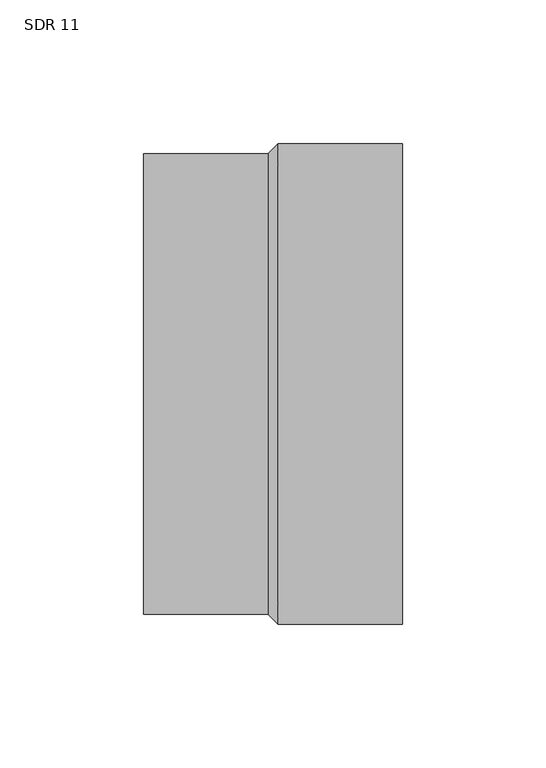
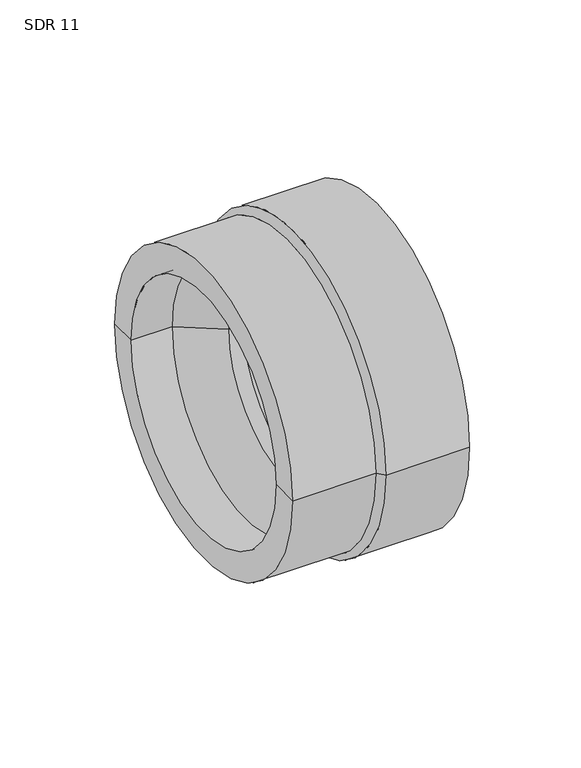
"""IFC4 building model written with IfcOpenShell, lengths in millimetres: pipe fitting geometry, Aquatherm - Reducing Coupling Butt Weld to Socket : SDR 11."""

from ifc_helpers import new_model, si_unit, frame, origin, place, context, project, spatial, polyline, circle_curve, source, transform, mapped, element, save
from ifc_brep_helpers import plane_surface, cylinder_surface, revolved_surface, advanced_brep


def sdr_11_1823e4a8(model_context):
    return source(origin(), model_context, "Body", "AdvancedBrep", [
        advanced_brep(
        [(1.7145, -83.439, 0.0), (1.7145, 83.439, 0.0), (44.958, 83.439, 0.0), (44.958, -83.439, 0.0), (44.958, 62.484, 0.0), (44.958, -62.484, 0.0), (-23.749, -65.405, 0.0), (-23.749, 65.405, 0.0), (-44.958, 65.405, 0.0), (-44.958, -65.405, 0.0), (-44.958, 80.01, 0.0), (-44.958, -80.01, 0.0), (5.08, 62.484, 0.0), (5.08, -62.484, 0.0), (5.08, 50.927, 0.0), (5.08, -50.927, 0.0), (-2.54, 50.927, 0.0), (-2.54, -50.927, 0.0), (-1.7145, 80.01, 0.0), (-1.7145, -80.01, 0.0)],
        [
            (0, 1, circle_curve(frame((1.7145, 0.0, 0.0), z_axis=(1.0, 0.0, 0.0), x_axis=(0.0, 1.0, 0.0)), 83.439)),
            (1, 2),
            (2, 3, circle_curve(frame((44.958, 0.0, 0.0), z_axis=(-1.0, 0.0, 0.0), x_axis=(0.0, 1.0, 0.0)), 83.439)),
            (3, 0),
            (1, 0, circle_curve(frame((1.7145, 0.0, 0.0), z_axis=(1.0, 0.0, 0.0), x_axis=(0.0, 1.0, 0.0)), 83.439)),
            (3, 2, circle_curve(frame((44.958, 0.0, 0.0), z_axis=(-1.0, 0.0, 0.0), x_axis=(0.0, 1.0, 0.0)), 83.439)),
            (2, 4),
            (4, 5, circle_curve(frame((44.958, 0.0, 0.0), z_axis=(-1.0, 0.0, 0.0), x_axis=(0.0, 1.0, 0.0)), 62.484)),
            (5, 3),
            (5, 4, circle_curve(frame((44.958, 0.0, 0.0), z_axis=(-1.0, 0.0, 0.0), x_axis=(0.0, 1.0, 0.0)), 62.484)),
            (6, 7, circle_curve(frame((-23.749, 0.0, 0.0), z_axis=(1.0, 0.0, 0.0), x_axis=(0.0, 1.0, 0.0)), 65.405)),
            (7, 8),
            (8, 9, circle_curve(frame((-44.958, 0.0, 0.0), z_axis=(-1.0, 0.0, 0.0), x_axis=(0.0, 1.0, 0.0)), 65.405)),
            (9, 6),
            (7, 6, circle_curve(frame((-23.749, 0.0, 0.0), z_axis=(1.0, 0.0, 0.0), x_axis=(0.0, 1.0, 0.0)), 65.405)),
            (9, 8, circle_curve(frame((-44.958, 0.0, 0.0), z_axis=(-1.0, 0.0, 0.0), x_axis=(0.0, 1.0, 0.0)), 65.405)),
            (8, 10),
            (10, 11, circle_curve(frame((-44.958, 0.0, 0.0), z_axis=(-1.0, 0.0, 0.0), x_axis=(0.0, 1.0, 0.0)), 80.01)),
            (11, 9),
            (11, 10, circle_curve(frame((-44.958, 0.0, 0.0), z_axis=(-1.0, 0.0, 0.0), x_axis=(0.0, 1.0, 0.0)), 80.01)),
            (4, 12),
            (12, 13, circle_curve(frame((5.08, 0.0, 0.0), z_axis=(-1.0, 0.0, 0.0), x_axis=(0.0, 1.0, 0.0)), 62.484)),
            (13, 5),
            (13, 12, circle_curve(frame((5.08, 0.0, 0.0), z_axis=(-1.0, 0.0, 0.0), x_axis=(0.0, 1.0, 0.0)), 62.484)),
            (12, 14),
            (14, 15, circle_curve(frame((5.08, 0.0, 0.0), z_axis=(-1.0, 0.0, 0.0), x_axis=(0.0, 1.0, 0.0)), 50.927)),
            (15, 13),
            (15, 14, circle_curve(frame((5.08, 0.0, 0.0), z_axis=(-1.0, 0.0, 0.0), x_axis=(0.0, 1.0, 0.0)), 50.927)),
            (14, 16),
            (16, 17, circle_curve(frame((-2.54, 0.0, 0.0), z_axis=(-1.0, 0.0, 0.0), x_axis=(0.0, 1.0, 0.0)), 50.927)),
            (17, 15),
            (17, 16, circle_curve(frame((-2.54, 0.0, 0.0), z_axis=(-1.0, 0.0, 0.0), x_axis=(0.0, 1.0, 0.0)), 50.927)),
            (10, 18),
            (18, 19, circle_curve(frame((-1.7145, 0.0, 0.0), z_axis=(-1.0, 0.0, 0.0), x_axis=(0.0, 1.0, 0.0)), 80.01)),
            (19, 11),
            (19, 18, circle_curve(frame((-1.7145, 0.0, 0.0), z_axis=(-1.0, 0.0, 0.0), x_axis=(0.0, 1.0, 0.0)), 80.01)),
            (16, 7),
            (6, 17),
            (18, 1),
            (0, 19),
        ],
        [
            cylinder_surface(frame((-77.0252293, 0.0, 0.0), z_axis=(-1.0, 0.0, 0.0), x_axis=(0.0, 1.0, 0.0)), 83.439),
            plane_surface(frame((44.958, 0.0, 0.0), z_axis=(1.0, 0.0, 0.0), x_axis=(0.0, 1.0, 0.0))),
            revolved_surface(polyline([(-44.958, 65.405, 0.0), (-23.748999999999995, 65.405, 0.0)]), (-77.0252293, 0.0, 0.0), (-1.0, 0.0, 0.0)),
            plane_surface(frame((-44.958, 0.0, 0.0), z_axis=(-1.0, 0.0, 0.0), x_axis=(0.0, 1.0, 0.0))),
            revolved_surface(polyline([(5.079999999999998, 62.484, 0.0), (44.958, 62.484, 0.0)]), (-77.0252293, 0.0, 0.0), (-1.0, 0.0, 0.0)),
            plane_surface(frame((5.08, 0.0, 0.0), z_axis=(1.0, 0.0, 0.0), x_axis=(0.0, 1.0, 0.0))),
            revolved_surface(polyline([(-2.5400000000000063, 50.927, 0.0), (5.079999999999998, 50.927, 0.0)]), (-77.0252293, 0.0, 0.0), (-1.0, 0.0, 0.0)),
            cylinder_surface(frame((-77.0252293, 0.0, 0.0), z_axis=(-1.0, 0.0, 0.0), x_axis=(0.0, 1.0, 0.0)), 80.01),
            revolved_surface(polyline([(-23.749, 65.405, 0.0), (-2.54, 50.927, 0.0)]), (-77.0252293, 0.0, 0.0), (-1.0, 0.0, 0.0)),
            revolved_surface(polyline([(1.7145, 83.439, 0.0), (-1.7145, 80.01, 0.0)]), (-77.0252293, 0.0, 0.0), (-1.0, 0.0, 0.0)),
        ],
        [
            (0, [[1, 2, 3, 4]]),
            (0, [[5, -4, 6, -2]]),
            (1, [[-3, 7, 8, 9]]),
            (1, [[-6, -9, 10, -7]]),
            (2, [[11, 12, 13, 14]]),
            (2, [[15, -14, 16, -12]]),
            (3, [[-13, 17, 18, 19]]),
            (3, [[-16, -19, 20, -17]]),
            (4, [[-8, 21, 22, 23]]),
            (4, [[-10, -23, 24, -21]]),
            (5, [[-22, 25, 26, 27]]),
            (5, [[-24, -27, 28, -25]]),
            (6, [[-26, 29, 30, 31]]),
            (6, [[-28, -31, 32, -29]]),
            (7, [[-18, 33, 34, 35]]),
            (7, [[-20, -35, 36, -33]]),
            (8, [[-30, 37, -11, 38]]),
            (8, [[-32, -38, -15, -37]]),
            (9, [[-34, 39, -1, 40]]),
            (9, [[-36, -40, -5, -39]]),
        ],
    ),
    ])


if __name__ == "__main__":
    model = new_model("IFC4")
    model_context = context("Model", 3, world=origin())
    ifc_project = project(units=[si_unit("LENGTHUNIT", "METRE", prefix="MILLI")], contexts=[model_context])
    site = spatial("IfcSite", under=ifc_project)
    building = spatial("IfcBuilding", under=site)
    placement = place(None, origin())
    sdr_11_shape = sdr_11_1823e4a8(model_context)
    element("IfcPipeFitting", 1, ObjectType="Aquatherm - Reducing Coupling Butt Weld to Socket : SDR 11", at=placement, inside=building, context=model_context, shape_type="MappedRepresentation", body=[
        mapped(sdr_11_shape, transform((0.0, 0.0, 0.0), x_axis=(1.0, 0.0, 0.0), y_axis=(0.0, 1.0, 0.0), z_axis=(0.0, 0.0, 1.0))),
    ])
    save(model, "model.ifc")
